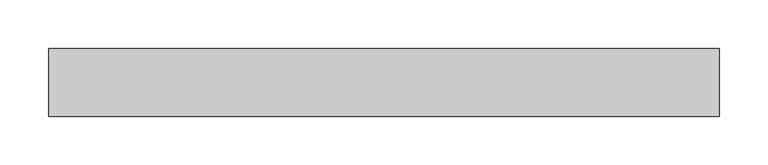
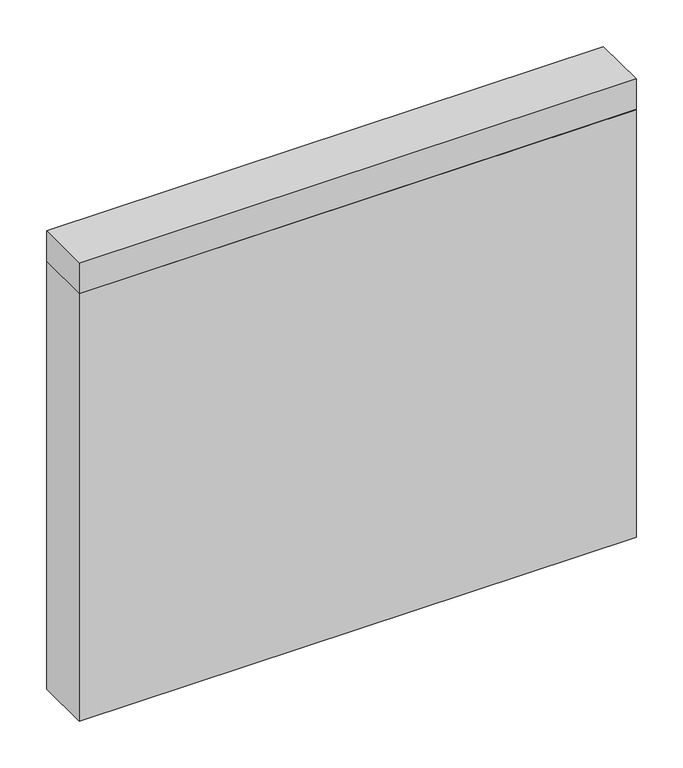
"""IFC4 building model written with IfcOpenShell, lengths in millimetres: plate geometry, 営_パーティションパネル_上部 : パーティションパネル_上部."""

from ifc_helpers import new_model, si_unit, frame, origin, origin_with_axes, place, context, project, spatial, polyline, outline, extrude, source, transform, mapped, element, save


def plate_44eb6428(model_context):
    return source(origin(), model_context, "Body", "SweptSolid", [
        extrude(outline(polyline([(-344.9999998, -35.0), (-344.9999998, 35.0), (344.9999998, 35.0), (344.9999998, -35.0), (-344.9999998, -35.0)])), origin_with_axes(), (0.0, 0.0, 1.0), 560.0),
        extrude(outline(polyline([(-344.9999998, -35.0), (-344.9999998, 35.0), (344.9999998, 35.0), (344.9999998, -35.0), (-344.9999998, -35.0)])), frame((0.0, 0.0, 560.0), z_axis=(0.0, 0.0, 1.0), x_axis=(1.0, 0.0, 0.0)), (0.0, 0.0, 1.0), 40.0),
    ])


if __name__ == "__main__":
    model = new_model("IFC4")
    model_context = context("Model", 3, world=origin())
    ifc_project = project(units=[si_unit("LENGTHUNIT", "METRE", prefix="MILLI")], contexts=[model_context])
    site = spatial("IfcSite", under=ifc_project)
    building = spatial("IfcBuilding", under=site)
    placement = place(None, origin())
    plate_shape = plate_44eb6428(model_context)
    element("IfcPlate", 1, ObjectType="営_パーティションパネル_上部 : パーティションパネル_上部", at=placement, inside=building, context=model_context, shape_type="MappedRepresentation", body=[
        mapped(plate_shape, transform((0.0, 0.0, 0.0), x_axis=(1.0, 0.0, 0.0), y_axis=(0.0, 1.0, 0.0), z_axis=(0.0, 0.0, 1.0))),
    ])
    save(model, "model.ifc")
